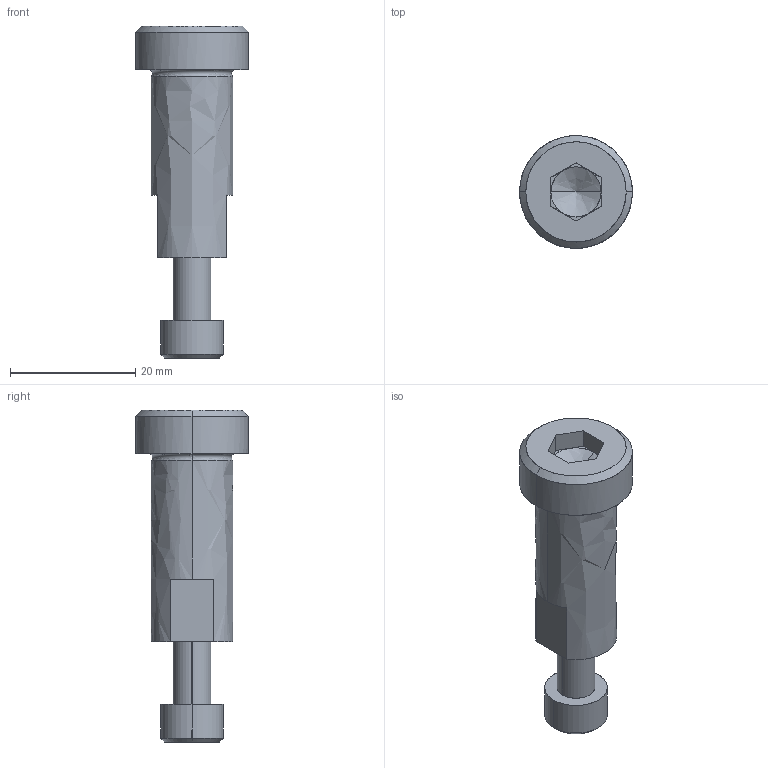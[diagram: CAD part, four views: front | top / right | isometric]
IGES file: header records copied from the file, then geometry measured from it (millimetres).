
Global section: file name: E:\UnigraphicsGraphicData\MISUMI_PRESS-PARTS\IGES\3d_sbt13-30_05062_r00.igs; native system: NX V5.0; preprocessor: UGS NX IGES V5.0; author: MISUMI; date: 20110105.162434; units: millimetre
Bounding box: 18 x 18 x 53 mm (x, y, z)
Surface area: 3358 mm2 (no closed solid volume)
Topology: 0 solids, 0 shells, 56 faces, 310 edges, 306 vertices
Faces by surface type: bspline 56
